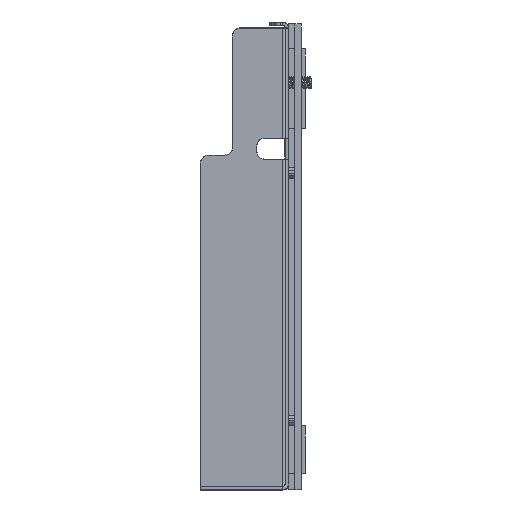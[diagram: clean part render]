
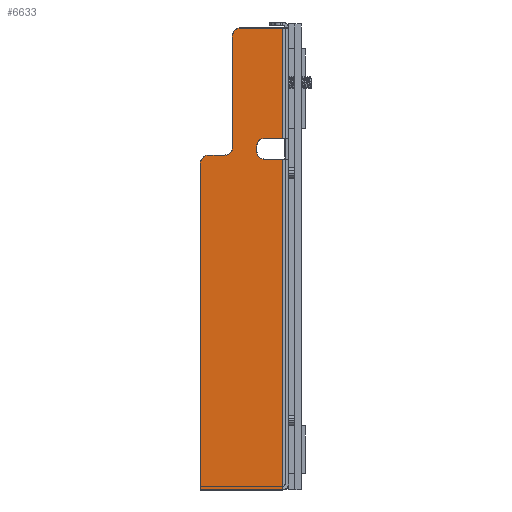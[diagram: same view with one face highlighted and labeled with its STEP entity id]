
A CAD part, left-side view. The second image highlights one B-rep face of the part: STEP entity #6633.
In plain terms, the highlighted planar face has unit normal (-1, 0, 0).
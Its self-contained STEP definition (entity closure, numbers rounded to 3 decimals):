
#4601=DIRECTION('',(0.,-1.,0.));
#4602=VECTOR('',#4601,41.6);
#4603=CARTESIAN_POINT('',(-302.12,-44.195,2.14));
#4604=LINE('',#4603,#4602);
#4641=DIRECTION('',(0.,-1.,0.));
#4642=VECTOR('',#4641,124.37);
#4643=CARTESIAN_POINT('',(-302.12,87.935,2.14));
#4644=LINE('',#4643,#4642);
#4645=CARTESIAN_POINT('',(-302.12,-34.815,30.));
#4646=DIRECTION('',(1.,0.,0.));
#4647=DIRECTION('',(0.,0.,1.));
#4648=AXIS2_PLACEMENT_3D('',#4645,#4646,#4647);
#4650=CARTESIAN_POINT('',(-302.12,-40.815,24.));
#4651=DIRECTION('',(-1.,0.,0.));
#4652=DIRECTION('',(0.,1.,0.));
#4653=AXIS2_PLACEMENT_3D('',#4650,#4651,#4652);
#4655=DIRECTION('',(0.,-1.,0.));
#4656=VECTOR('',#4655,41.86);
#4657=CARTESIAN_POINT('',(-302.12,-40.815,21.12));
#4658=LINE('',#4657,#4656);
#4659=CARTESIAN_POINT('',(-302.12,-82.675,18.));
#4660=DIRECTION('',(1.,0.,0.));
#4661=DIRECTION('',(0.,0.,1.));
#4662=AXIS2_PLACEMENT_3D('',#4659,#4660,#4661);
#4664=DIRECTION('',(0.,0.,-1.));
#4665=VECTOR('',#4664,15.86);
#4666=CARTESIAN_POINT('',(-302.12,-85.795,18.));
#4667=LINE('',#4666,#4665);
#4668=CARTESIAN_POINT('',(-302.12,-41.315,9.));
#4669=DIRECTION('',(-1.,0.,0.));
#4670=DIRECTION('',(0.,-1.,0.));
#4671=AXIS2_PLACEMENT_3D('',#4668,#4669,#4670);
#4673=DIRECTION('',(0.,1.,0.));
#4674=VECTOR('',#4673,2.);
#4675=CARTESIAN_POINT('',(-302.12,-41.315,11.88));
#4676=LINE('',#4675,#4674);
#4677=CARTESIAN_POINT('',(-302.12,-39.315,9.));
#4678=DIRECTION('',(-1.,0.,0.));
#4679=DIRECTION('',(0.,0.,1.));
#4680=AXIS2_PLACEMENT_3D('',#4677,#4678,#4679);
#4682=DIRECTION('',(0.,0.,-1.));
#4683=VECTOR('',#4682,6.86);
#4684=CARTESIAN_POINT('',(-302.12,-36.435,9.));
#4685=LINE('',#4684,#4683);
#4686=DIRECTION('',(0.,-1.,0.));
#4687=VECTOR('',#4686,122.75);
#4688=CARTESIAN_POINT('',(-302.12,87.935,33.12));
#4689=LINE('',#4688,#4687);
#4874=DIRECTION('',(0.,0.,-1.));
#4875=VECTOR('',#4874,6.86);
#4876=CARTESIAN_POINT('',(-302.12,-44.195,9.));
#4877=LINE('',#4876,#4875);
#4921=DIRECTION('',(0.,0.,1.));
#4922=VECTOR('',#4921,6.);
#4923=CARTESIAN_POINT('',(-302.12,-37.935,24.));
#4924=LINE('',#4923,#4922);
#4944=DIRECTION('',(0.,0.,-1.));
#4945=VECTOR('',#4944,30.98);
#4946=CARTESIAN_POINT('',(-302.12,87.935,33.12));
#4947=LINE('',#4946,#4945);
#5385=CARTESIAN_POINT('',(-302.12,87.935,2.14));
#5386=VERTEX_POINT('',#5385);
#5646=CARTESIAN_POINT('',(-302.12,-85.795,2.14));
#5647=VERTEX_POINT('',#5646);
#5650=CARTESIAN_POINT('',(-302.12,-44.195,2.14));
#5651=VERTEX_POINT('',#5650);
#5654=CARTESIAN_POINT('',(-302.12,-36.435,2.14));
#5655=VERTEX_POINT('',#5654);
#5658=CARTESIAN_POINT('',(-302.12,-34.815,33.12));
#5659=CARTESIAN_POINT('',(-302.12,-37.935,30.));
#5660=VERTEX_POINT('',#5658);
#5661=VERTEX_POINT('',#5659);
#5662=CARTESIAN_POINT('',(-302.12,-37.935,24.));
#5663=VERTEX_POINT('',#5662);
#5664=CARTESIAN_POINT('',(-302.12,-40.815,21.12));
#5665=VERTEX_POINT('',#5664);
#5666=CARTESIAN_POINT('',(-302.12,-82.675,21.12));
#5667=VERTEX_POINT('',#5666);
#5668=CARTESIAN_POINT('',(-302.12,-85.795,18.));
#5669=VERTEX_POINT('',#5668);
#5670=CARTESIAN_POINT('',(-302.12,-44.195,9.));
#5671=VERTEX_POINT('',#5670);
#5672=CARTESIAN_POINT('',(-302.12,-41.315,11.88));
#5673=VERTEX_POINT('',#5672);
#5674=CARTESIAN_POINT('',(-302.12,-39.315,11.88));
#5675=VERTEX_POINT('',#5674);
#5676=CARTESIAN_POINT('',(-302.12,-36.435,9.));
#5677=VERTEX_POINT('',#5676);
#5678=CARTESIAN_POINT('',(-302.12,87.935,33.12));
#5679=VERTEX_POINT('',#5678);
#6598=CARTESIAN_POINT('',(-302.12,-85.675,2.14));
#6599=DIRECTION('',(-1.,0.,0.));
#6600=DIRECTION('',(0.,0.,1.));
#6601=AXIS2_PLACEMENT_3D('',#6598,#6599,#6600);
#6602=PLANE('',#6601);
#6604=ORIENTED_EDGE('',*,*,#6603,.T.);
#6606=ORIENTED_EDGE('',*,*,#6605,.F.);
#6608=ORIENTED_EDGE('',*,*,#6607,.T.);
#6610=ORIENTED_EDGE('',*,*,#6609,.T.);
#6612=ORIENTED_EDGE('',*,*,#6611,.T.);
#6614=ORIENTED_EDGE('',*,*,#6613,.T.);
#6615=ORIENTED_EDGE('',*,*,#6533,.F.);
#6617=ORIENTED_EDGE('',*,*,#6616,.F.);
#6619=ORIENTED_EDGE('',*,*,#6618,.T.);
#6621=ORIENTED_EDGE('',*,*,#6620,.T.);
#6623=ORIENTED_EDGE('',*,*,#6622,.T.);
#6625=ORIENTED_EDGE('',*,*,#6624,.T.);
#6626=ORIENTED_EDGE('',*,*,#6591,.F.);
#6628=ORIENTED_EDGE('',*,*,#6627,.F.);
#6630=ORIENTED_EDGE('',*,*,#6629,.T.);
#6631=EDGE_LOOP('',(#6604,#6606,#6608,#6610,#6612,#6614,#6615,#6617,#6619,#6621,
#6623,#6625,#6626,#6628,#6630));
#6632=FACE_OUTER_BOUND('',#6631,.F.);
#4649=CIRCLE('',#4648,3.12);
#4654=CIRCLE('',#4653,2.88);
#4663=CIRCLE('',#4662,3.12);
#4672=CIRCLE('',#4671,2.88);
#4681=CIRCLE('',#4680,2.88);
#6533=EDGE_CURVE('',#5651,#5647,#4604,.T.);
#6591=EDGE_CURVE('',#5386,#5655,#4644,.T.);
#6603=EDGE_CURVE('',#5660,#5661,#4649,.T.);
#6605=EDGE_CURVE('',#5663,#5661,#4924,.T.);
#6607=EDGE_CURVE('',#5663,#5665,#4654,.T.);
#6609=EDGE_CURVE('',#5665,#5667,#4658,.T.);
#6611=EDGE_CURVE('',#5667,#5669,#4663,.T.);
#6613=EDGE_CURVE('',#5669,#5647,#4667,.T.);
#6616=EDGE_CURVE('',#5671,#5651,#4877,.T.);
#6618=EDGE_CURVE('',#5671,#5673,#4672,.T.);
#6620=EDGE_CURVE('',#5673,#5675,#4676,.T.);
#6622=EDGE_CURVE('',#5675,#5677,#4681,.T.);
#6624=EDGE_CURVE('',#5677,#5655,#4685,.T.);
#6627=EDGE_CURVE('',#5679,#5386,#4947,.T.);
#6629=EDGE_CURVE('',#5679,#5660,#4689,.T.);
#6633=ADVANCED_FACE('',(#6632),#6602,.T.);
